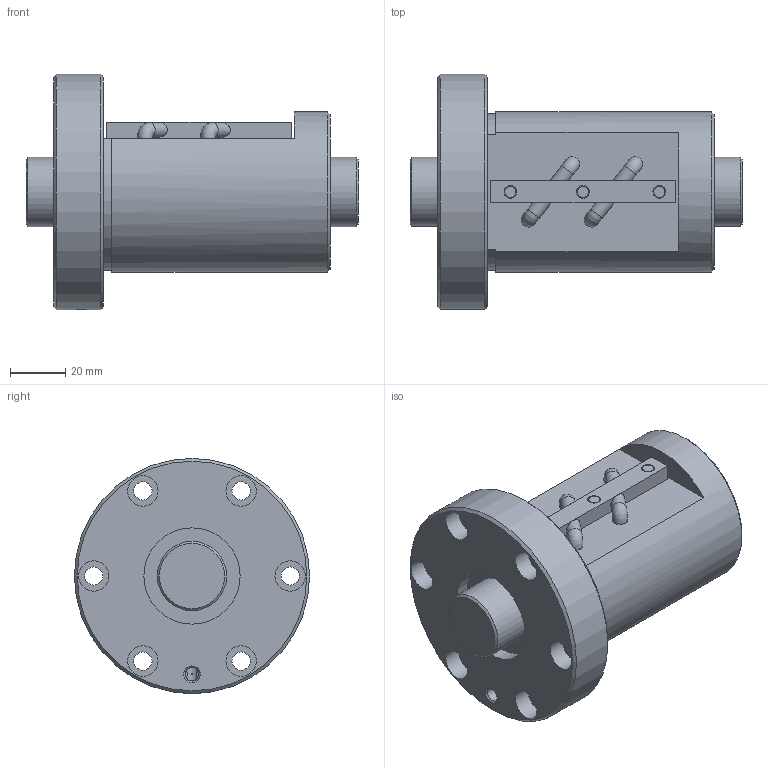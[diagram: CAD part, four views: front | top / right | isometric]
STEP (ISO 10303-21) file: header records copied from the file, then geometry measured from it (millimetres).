
FILE_DESCRIPTION(/* description */ ('STEP AP203'),/* implementation_level */ '2;1');
FILE_NAME(/* name */ 'BIF2510V-5RRG0+120LC0_000',/* time_stamp */ '2024-07-15T08:17:56+02:00',/* author */ ('License CC BY-ND 4.0'),/* organization */ ('CADENAS'),/* preprocessor_version */ 'ST-DEVELOPER v19.3',/* originating_system */ 'PARTsolutions',/* authorisation */ ' ');
FILE_SCHEMA (('CONFIG_CONTROL_DESIGN'));
Length unit declared in the file: millimetre
Products named in the file (3): BIF2510V-5RRG0+120LC0_000; BIF2510V-5RR000 Shaft; BIF2510V-5RR Nut
Assembly tree (2 placements, depth 2):
  BIF2510V-5RRG0+120LC0_000
    BIF2510V-5RR000 Shaft
    BIF2510V-5RR Nut
Bounding box: 120 x 85 x 85 mm (x, y, z)
Volume: 300629.1 mm3; surface area: 52928.9 mm2
Topology: 2 solids, 2 shells, 90 faces, 201 edges, 128 vertices
Faces by surface type: plane 41, cylinder 36, cone 9, torus 4
Full cylindrical faces by diameter (mm): 4 x3, 4.25 x2, 4.6 x3, 4.917 x1, 5.4 x4, 6.6 x6, 11 x6, 25 x2, 34.8 x2, 58 x1, 85 x1
Entity records: 2420 total; most frequent: CARTESIAN_POINT 470, DIRECTION 424, ORIENTED_EDGE 294, AXIS2_PLACEMENT_3D 195, FACE_BOUND 169, EDGE_LOOP 168, EDGE_CURVE 147, VERTEX_POINT 116
